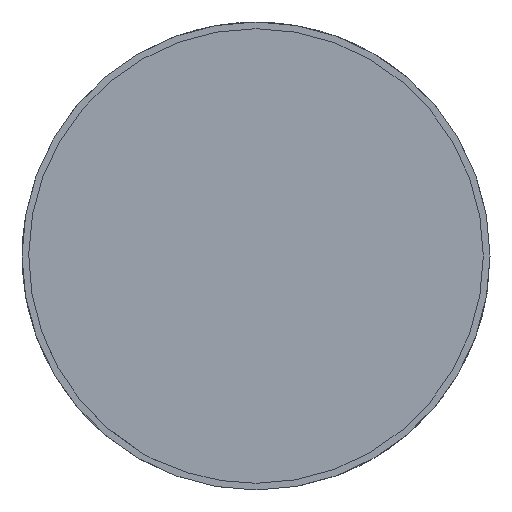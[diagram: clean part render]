
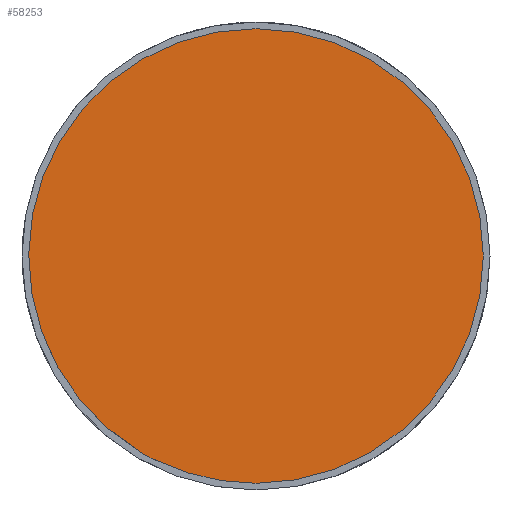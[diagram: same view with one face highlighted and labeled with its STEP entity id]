
A CAD part, front view. The second image highlights one B-rep face of the part: STEP entity #58253.
In plain terms, the highlighted planar face has unit normal (0, -1, 0).
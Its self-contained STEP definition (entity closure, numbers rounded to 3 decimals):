
#175 = VERTEX_POINT ( 'NONE', #31264 ) ;
#1287 = DIRECTION ( 'NONE',  ( 0., -1., 0. ) ) ;
#1416 = CARTESIAN_POINT ( 'NONE',  ( 0., -27., 0. ) ) ;
#2802 = VERTEX_POINT ( 'NONE', #60970 ) ;
#2934 = CIRCLE ( 'NONE', #49301, 68. ) ;
#7369 = ORIENTED_EDGE ( 'NONE', *, *, #73579, .T. ) ;
#8310 = ORIENTED_EDGE ( 'NONE', *, *, #80477, .T. ) ;
#9073 = CIRCLE ( 'NONE', #60761, 68.112 ) ;
#9210 = FACE_OUTER_BOUND ( 'NONE', #23610, .T. ) ;
#10300 = CARTESIAN_POINT ( 'NONE',  ( -34.811, -27., -58.545 ) ) ;
#10931 = VECTOR ( 'NONE', #13749, 1000. ) ;
#11944 = CARTESIAN_POINT ( 'NONE',  ( -34.811, -27., -58.545 ) ) ;
#13749 = DIRECTION ( 'NONE',  ( 0.443, 0., 0.897 ) ) ;
#17401 = VERTEX_POINT ( 'NONE', #78100 ) ;
#17441 = VECTOR ( 'NONE', #44253, 1000. ) ;
#18958 = LINE ( 'NONE', #11944, #17441 ) ;
#20809 = PLANE ( 'NONE',  #57093 ) ;
#20890 = CARTESIAN_POINT ( 'NONE',  ( -34.754, -27., -58.448 ) ) ;
#23610 = EDGE_LOOP ( 'NONE', ( #7369, #33980, #45913, #65723, #79871, #8310 ) ) ;
#24245 = EDGE_CURVE ( 'NONE', #65373, #17401, #2934, .T. ) ;
#25875 = DIRECTION ( 'NONE',  ( 0., 0., 1. ) ) ;
#26803 = CARTESIAN_POINT ( 'NONE',  ( 0., -27., 0. ) ) ;
#29718 = CARTESIAN_POINT ( 'NONE',  ( 0., -27., 0. ) ) ;
#30983 = EDGE_CURVE ( 'NONE', #69005, #31345, #18958, .T. ) ;
#31155 = LINE ( 'NONE', #56484, #10931 ) ;
#31264 = CARTESIAN_POINT ( 'NONE',  ( 0., -27., 68. ) ) ;
#31345 = VERTEX_POINT ( 'NONE', #20890 ) ;
#33980 = ORIENTED_EDGE ( 'NONE', *, *, #24245, .T. ) ;
#39838 = DIRECTION ( 'NONE',  ( 0., 0., 1. ) ) ;
#44253 = DIRECTION ( 'NONE',  ( 0.511, 0., 0.86 ) ) ;
#45913 = ORIENTED_EDGE ( 'NONE', *, *, #76543, .T. ) ;
#47317 = CIRCLE ( 'NONE', #60592, 68. ) ;
#49301 = AXIS2_PLACEMENT_3D ( 'NONE', #29718, #53432, #65879 ) ;
#52140 = DIRECTION ( 'NONE',  ( 0., -1., 0. ) ) ;
#52766 = CARTESIAN_POINT ( 'NONE',  ( 0., -27., 0. ) ) ;
#53432 = DIRECTION ( 'NONE',  ( 0., -1., 0. ) ) ;
#53585 = DIRECTION ( 'NONE',  ( 0., 1., 0. ) ) ;
#53667 = CARTESIAN_POINT ( 'NONE',  ( -30.091, -27., -60.98 ) ) ;
#56484 = CARTESIAN_POINT ( 'NONE',  ( -30.14, -27., -61.081 ) ) ;
#56993 = AXIS2_PLACEMENT_3D ( 'NONE', #1416, #57438, #25875 ) ;
#57093 = AXIS2_PLACEMENT_3D ( 'NONE', #52766, #53585, #60221 ) ;
#57438 = DIRECTION ( 'NONE',  ( 0., -1., 0. ) ) ;
#58119 = CARTESIAN_POINT ( 'NONE',  ( 0., -27., 0. ) ) ;
#58253 = ADVANCED_FACE ( 'NONE', ( #9210 ), #20809, .F. ) ;
#60221 = DIRECTION ( 'NONE',  ( 1., 0., 0. ) ) ;
#60592 = AXIS2_PLACEMENT_3D ( 'NONE', #26803, #52140, #64597 ) ;
#60761 = AXIS2_PLACEMENT_3D ( 'NONE', #58119, #1287, #39838 ) ;
#60970 = CARTESIAN_POINT ( 'NONE',  ( -30.14, -27., -61.081 ) ) ;
#62337 = CIRCLE ( 'NONE', #56993, 68. ) ;
#64597 = DIRECTION ( 'NONE',  ( 0., 0., 1. ) ) ;
#65373 = VERTEX_POINT ( 'NONE', #53667 ) ;
#65723 = ORIENTED_EDGE ( 'NONE', *, *, #68627, .T. ) ;
#65879 = DIRECTION ( 'NONE',  ( 0., 0., 1. ) ) ;
#68627 = EDGE_CURVE ( 'NONE', #175, #31345, #62337, .T. ) ;
#69005 = VERTEX_POINT ( 'NONE', #10300 ) ;
#73579 = EDGE_CURVE ( 'NONE', #2802, #65373, #31155, .T. ) ;
#76543 = EDGE_CURVE ( 'NONE', #17401, #175, #47317, .T. ) ;
#78100 = CARTESIAN_POINT ( 'NONE',  ( 0., -27., -68. ) ) ;
#79871 = ORIENTED_EDGE ( 'NONE', *, *, #30983, .F. ) ;
#80477 = EDGE_CURVE ( 'NONE', #69005, #2802, #9073, .T. ) ;
